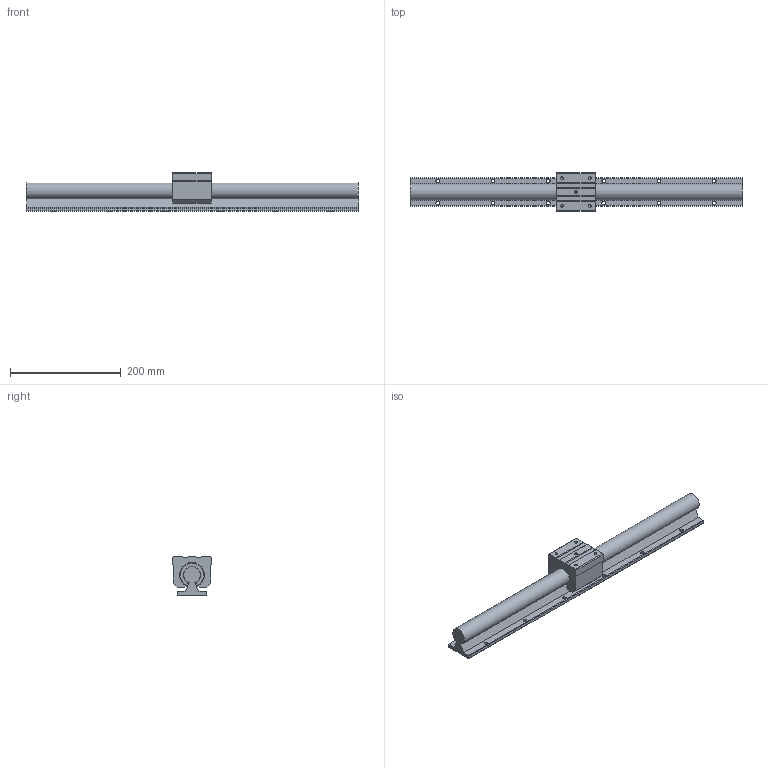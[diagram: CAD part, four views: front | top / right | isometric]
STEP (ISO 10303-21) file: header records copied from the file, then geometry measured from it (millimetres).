
FILE_DESCRIPTION((''),'2;1');
FILE_NAME('D:\製品 (図面)\カタログ用3D\リニアガイド関連\STEP形式\GHA(W)\GHAW30.stp','2010-06-08T09:16:11',('Tsuchiya'),(''),'Autodesk Inventor 10','Autodesk Inventor 10','');
FILE_SCHEMA(('AUTOMOTIVE_DESIGN { 1 0 10303 214 1 1 1 1 }'));
Length unit declared in the file: millimetre
Products named in the file (3): GHAW30; GHAW301; GHAW302
Assembly tree (2 placements, depth 2):
  GHAW30
    GHAW301
    GHAW302
Bounding box: 600 x 70 x 70 mm (x, y, z)
Volume: 988005.8 mm3; surface area: 164135.4 mm2
Topology: 2 solids, 2 shells, 171 faces, 461 edges, 303 vertices
Faces by surface type: plane 100, cylinder 46, bspline 10, torus 8, cone 7
Full cylindrical faces by diameter (mm): 6.5 x12, 10 x6, 10.4 x6
Entity records: 5109 total; most frequent: CARTESIAN_POINT 1122, DIRECTION 784, ORIENTED_EDGE 776, EDGE_CURVE 388, AXIS2_PLACEMENT_3D 276, VERTEX_POINT 276, EDGE_LOOP 254, VECTOR 232
